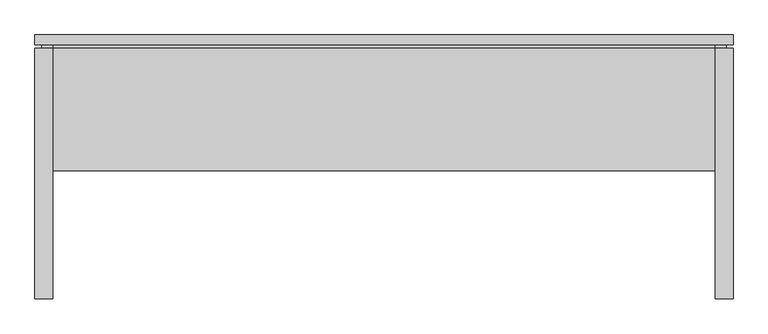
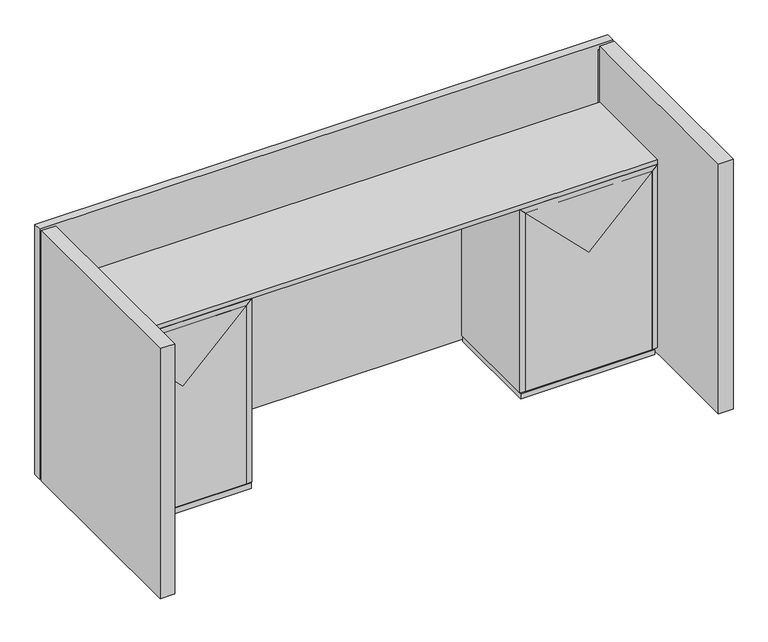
"""IFC4 building model written with IfcOpenShell, lengths in millimetres: proxy geometry, BASYS^OFFICE 5_DESK-36in LOOP BASESiam."""

import ifcopenshell
import ifcopenshell.guid

model = None  # the IFC model being written
_history = None  # IfcOwnerHistory: only IFC2X3 demands one
_inside = {}  # id of a spatial element -> (the spatial element, [elements in it])
_under = {}  # id of a project, library or spatial element -> (it, [spatial elements below it])
_declared = {}  # id of a project -> (the project, [libraries it declares])
_typed = {}  # id of a type object -> (the type object, [elements of that type])
_made_of = {}  # id of a material, layer set ... -> (it, [elements and type objects made of it])


def new_model(schema):
    """Start an empty IFC model of exactly this schema.

    Asked for "IFC4X3", IfcOpenShell would pick the latest addendum, in which some entities
    have other attributes; the version numbers below select the first issue.
    IFC2X3 requires an IfcOwnerHistory on every rooted entity: one is made here for all.
    """
    global model, _history
    if schema == "IFC4X3":
        model = ifcopenshell.file(schema_version=(4, 3, 0, 0))
    else:
        model = ifcopenshell.file(schema=schema)
    _inside.clear()
    _under.clear()
    _declared.clear()
    _typed.clear()
    _made_of.clear()
    _history = None
    if model.schema == "IFC2X3":
        org = make("IfcOrganization", Name="unknown")
        user = make(
            "IfcPersonAndOrganization",
            ThePerson=make("IfcPerson", FamilyName="unknown"),
            TheOrganization=org,
        )
        app = make(
            "IfcApplication",
            ApplicationDeveloper=org,
            Version="unknown",
            ApplicationFullName="unknown",
            ApplicationIdentifier="unknown",
        )
        _history = make(
            "IfcOwnerHistory",
            OwningUser=user,
            OwningApplication=app,
            ChangeAction="ADDED",
            CreationDate=0,
        )
    return model


def make(cls, **values):
    """One entity of the class cls with the attributes given. An attribute that is None is left unset."""
    return model.create_entity(
        cls, **{name: value for name, value in values.items() if value is not None}
    )


def rooted(cls, **values):
    """An entity with a GlobalId (a new one), such as an element, a storey or a relation."""
    return make(cls, GlobalId=ifcopenshell.guid.new(), OwnerHistory=_history, **values)


def si_unit(unit_type, name, prefix=None):
    """IfcSIUnit, for example si_unit("LENGTHUNIT", "METRE", prefix="MILLI")."""
    return make("IfcSIUnit", UnitType=unit_type, Prefix=prefix, Name=name)


def assignment(units):
    """IfcUnitAssignment: the units of a project."""
    return None if units is None else make("IfcUnitAssignment", Units=units)


def point(xyz):
    """IfcCartesianPoint."""
    return None if xyz is None else make("IfcCartesianPoint", Coordinates=xyz)


def direction(xyz):
    """IfcDirection."""
    return None if xyz is None else make("IfcDirection", DirectionRatios=xyz)


def frame(location, z_axis=None, x_axis=None):
    """IfcAxis2Placement3D, a coordinate frame: its origin and axes. An axis left out is left unset."""
    return make(
        "IfcAxis2Placement3D",
        Location=point(location),
        Axis=direction(z_axis),
        RefDirection=direction(x_axis),
    )


def origin():
    """The frame at (0, 0, 0) with its axes left unset."""
    return frame((0.0, 0.0, 0.0))


def place(relative_to, where):
    """IfcLocalPlacement: puts the frame where relative to a parent placement (None: the world)."""
    return make(
        "IfcLocalPlacement", PlacementRelTo=relative_to, RelativePlacement=where
    )


def context(
    kind, dimensions, precision=None, world=None, true_north=None, identifier=None
):
    """IfcGeometricRepresentationContext, for example the 3D "Model" context."""
    return make(
        "IfcGeometricRepresentationContext",
        ContextIdentifier=identifier,
        ContextType=kind,
        CoordinateSpaceDimension=dimensions,
        Precision=precision,
        WorldCoordinateSystem=world,
        TrueNorth=true_north,
    )


def project(units=None, contexts=None):
    """IfcProject with its units and contexts."""
    return rooted(
        "IfcProject",
        Name="project",
        RepresentationContexts=contexts,
        UnitsInContext=assignment(units),
    )


def spatial(cls, under=None, at=None, **own):
    """A site, building, storey or space (cls), placed at a placement, below another one or the project."""
    s = rooted(cls, ObjectPlacement=at, **own)
    if under is not None:
        _under.setdefault(under.id(), (under, []))[1].append(s)
    return s


def polyline(points):
    """IfcPolyline through the points."""
    return make("IfcPolyline", Points=[point(p) for p in points])


def outline(outer, holes=None, kind="AREA"):
    """IfcArbitraryClosedProfileDef: a profile drawn as a closed curve; with holes, ...WithVoids."""
    if holes is None:
        return make("IfcArbitraryClosedProfileDef", ProfileType=kind, OuterCurve=outer)
    return make(
        "IfcArbitraryProfileDefWithVoids",
        ProfileType=kind,
        OuterCurve=outer,
        InnerCurves=holes,
    )


def extrude(swept, where, along, depth):
    """IfcExtrudedAreaSolid: the profile swept, set in the frame where, extruded along a direction by depth."""
    return make(
        "IfcExtrudedAreaSolid",
        SweptArea=swept,
        Position=where,
        ExtrudedDirection=direction(along),
        Depth=depth,
    )


def shape(context_of_items, identifier, shape_type, items):
    """IfcShapeRepresentation: the items that make up one representation, for example the "Body"."""
    return make(
        "IfcShapeRepresentation",
        ContextOfItems=context_of_items,
        RepresentationIdentifier=identifier,
        RepresentationType=shape_type,
        Items=items,
    )


def source(mapping_origin, context_of_items, identifier, shape_type, items):
    """IfcRepresentationMap: a shape defined once, which mapped items show again and again."""
    return make(
        "IfcRepresentationMap",
        MappingOrigin=mapping_origin,
        MappedRepresentation=shape(context_of_items, identifier, shape_type, items),
    )


def transform(
    local_origin,
    x_axis=None,
    y_axis=None,
    z_axis=None,
    scale=None,
    scale2=None,
    scale3=None,
    uniform=True,
):
    """IfcCartesianTransformationOperator3D, or its non-uniform kind. x_axis, y_axis, z_axis: its Axis1, 2, 3."""
    if uniform:
        return make(
            "IfcCartesianTransformationOperator3D",
            Axis1=direction(x_axis),
            Axis2=direction(y_axis),
            LocalOrigin=point(local_origin),
            Scale=scale,
            Axis3=direction(z_axis),
        )
    return make(
        "IfcCartesianTransformationOperator3DnonUniform",
        Axis1=direction(x_axis),
        Axis2=direction(y_axis),
        LocalOrigin=point(local_origin),
        Scale=scale,
        Axis3=direction(z_axis),
        Scale2=scale2,
        Scale3=scale3,
    )


def mapped(mapping_source, mapping_target):
    """IfcMappedItem: shows the shape of a source again, moved by a transform."""
    return make(
        "IfcMappedItem", MappingSource=mapping_source, MappingTarget=mapping_target
    )


def made_of(thing, what):
    """Note that an element or type object is made of a material, layer set ...; save() writes the relation."""
    if what is not None:
        _made_of.setdefault(what.id(), (what, []))[1].append(thing)
    return thing


def element(
    cls,
    number,
    at=None,
    inside=None,
    cuts=None,
    type_object=None,
    material=None,
    context=None,
    identifier="Body",
    shape_type=None,
    held_by="IfcProductDefinitionShape",
    body=None,
    shapes=None,
    **own,
):
    """One element of the class cls, such as IfcWall. Its Tag is "e" and its number.

    at: its placement. inside: the storey or other place that contains it. cuts: it is an
    opening in that element (IfcRelVoidsElement). A single representation is given by context,
    identifier, shape_type and body (its items); several are given by shapes. held_by: the class
    of the entity that holds the representations. save() writes the other relations.
    """
    e = rooted(cls, Tag="e%d" % number, ObjectPlacement=at, **own)
    if body is not None:
        shapes = [shape(context, identifier, shape_type, body)]
    if shapes is not None:
        e.Representation = make(held_by, Representations=shapes)
    if inside is not None:
        _inside.setdefault(inside.id(), (inside, []))[1].append(e)
    if cuts is not None:
        rooted(
            "IfcRelVoidsElement", RelatingBuildingElement=cuts, RelatedOpeningElement=e
        )
    if type_object is not None:
        _typed.setdefault(type_object.id(), (type_object, []))[1].append(e)
    return made_of(e, material)


def aggregate(whole, parts):
    """IfcRelAggregates: a whole, such as a stair, and the parts it consists of."""
    return rooted("IfcRelAggregates", RelatingObject=whole, RelatedObjects=parts)


def save(model, path):
    """Write the relations noted so far, then the file.

    IfcRelAggregates (storeys below a building ...), IfcRelContainedInSpatialStructure (elements
    in a storey), IfcRelDefinesByType, IfcRelAssociatesMaterial and IfcRelDeclares: one each for
    every whole, place, type object, material and project.
    """
    for whole, parts in _under.values():
        aggregate(whole, parts)
    for where, things in _inside.values():
        rooted(
            "IfcRelContainedInSpatialStructure",
            RelatedElements=things,
            RelatingStructure=where,
        )
    for kind, things in _typed.values():
        rooted("IfcRelDefinesByType", RelatedObjects=things, RelatingType=kind)
    for what, things in _made_of.values():
        rooted("IfcRelAssociatesMaterial", RelatedObjects=things, RelatingMaterial=what)
    for by, libraries in _declared.values():
        rooted("IfcRelDeclares", RelatingContext=by, RelatedDefinitions=libraries)
    model.write(path)


def generic_models_d165ae00(model_context):
    return source(origin(), model_context, "Body", "SweptSolid", [
        extrude(outline(polyline([(876.9020604, -34.6129133), (-1028.0979396, -34.6129133), (-1028.0979396, -6.0379133), (876.9020604, -6.0379133), (876.9020604, -34.6129133)])), frame((0.0, 0.0, 79.1004515), z_axis=(0.0, 0.0, 1.0), x_axis=(1.0, 0.0, 0.0)), (0.0, 0.0, 1.0), 25.4),
        extrude(outline(polyline([(-1015.3979396, -15.5629133), (-1015.3979396, -726.7629133), (-1066.1979396, -726.7629133), (-1066.1979396, -15.5629133), (-1015.3979396, -15.5629133)])), frame((0.0, 0.0, -589.2370485), z_axis=(0.0, 0.0, 1.0), x_axis=(1.0, 0.0, 0.0)), (0.0, 0.0, 1.0), 914.4),
        extrude(outline(polyline([(-672.7010646, -71.3629133), (-874.7010646, -71.3629133), (-874.7010646, -61.3629133), (-672.7010646, -61.3629133), (-672.7010646, -71.3629133)])), frame((0.0, 0.0, -619.2370485), z_axis=(0.0, 0.0, 1.0), x_axis=(1.0, 0.0, 0.0)), (0.0, 0.0, 1.0), 30.0),
        extrude(outline(polyline([(85.4504515, -996.3479396), (104.5004515, -1015.3979396), (-567.0120485, -1015.3979396), (-567.0120485, -996.3479396), (85.4504515, -996.3479396)])), frame((0.0, -362.9079133, 0.0), z_axis=(0.0, 1.0, 0.0), x_axis=(0.0, 0.0, 1.0)), (0.0, 0.0, 1.0), 347.345),
        extrude(outline(polyline([(104.5004515, -1015.3979396), (-133.6245485, -777.2729396), (104.5004515, -539.1479396), (104.5004515, -1015.3979396)])), frame((0.0, -362.9079133, 0.0), z_axis=(0.0, 1.0, 0.0), x_axis=(0.0, 0.0, 1.0)), (0.0, 0.0, 1.0), 328.295),
        extrude(outline(polyline([(-558.1979396, -343.8579133), (-558.1979396, -362.9079133), (-996.3479396, -362.9079133), (-996.3479396, -343.8579133), (-558.1979396, -343.8579133)])), frame((0.0, 0.0, -567.0120485), z_axis=(0.0, 0.0, 1.0), x_axis=(1.0, 0.0, 0.0)), (0.0, 0.0, 1.0), 652.4625),
        extrude(outline(polyline([(-1005.8729396, -188.0447883), (-1005.8729396, -15.5629133), (-541.5291896, -15.5629133), (-541.5291896, -188.0447883), (-1005.8729396, -188.0447883)])), frame((0.0, 0.0, -589.2370485), z_axis=(0.0, 0.0, 1.0), x_axis=(1.0, 0.0, 0.0)), (0.0, 0.0, 1.0), 19.05),
        extrude(outline(polyline([(104.5004515, -539.1479396), (85.4504515, -558.1979396), (-567.0120485, -558.1979396), (-567.0120485, -539.1479396), (104.5004515, -539.1479396)])), frame((0.0, -362.9079133, 0.0), z_axis=(0.0, 1.0, 0.0), x_axis=(0.0, 0.0, 1.0)), (0.0, 0.0, 1.0), 347.345),
        extrude(outline(polyline([(-541.5291896, -190.4260383), (-541.5291896, -362.9079133), (-1005.8729396, -362.9079133), (-1005.8729396, -190.4260383), (-541.5291896, -190.4260383)])), frame((0.0, 0.0, -589.2370485), z_axis=(0.0, 0.0, 1.0), x_axis=(1.0, 0.0, 0.0)), (0.0, 0.0, 1.0), 19.05),
        extrude(outline(polyline([(-672.7010646, -246.2260383), (-874.7010646, -246.2260383), (-874.7010646, -236.2260383), (-672.7010646, -236.2260383), (-672.7010646, -246.2260383)])), frame((0.0, 0.0, -619.2370485), z_axis=(0.0, 0.0, 1.0), x_axis=(1.0, 0.0, 0.0)), (0.0, 0.0, 1.0), 30.0),
        extrude(outline(polyline([(864.2020604, -15.5629133), (864.2020604, -362.9079133), (-1015.3979396, -362.9079133), (-1015.3979396, -15.5629133), (864.2020604, -15.5629133)])), frame((0.0, 0.0, 104.5004515), z_axis=(0.0, 0.0, 1.0), x_axis=(1.0, 0.0, 0.0)), (0.0, 0.0, 1.0), 15.875),
        extrude(outline(polyline([(723.5051854, -71.3629133), (521.5051854, -71.3629133), (521.5051854, -61.3629133), (723.5051854, -61.3629133), (723.5051854, -71.3629133)])), frame((0.0, 0.0, -619.2370485), z_axis=(0.0, 0.0, 1.0), x_axis=(1.0, 0.0, 0.0)), (0.0, 0.0, 1.0), 30.0),
        extrude(outline(polyline([(85.4504515, 407.0020604), (104.5004515, 387.9520604), (-567.0120485, 387.9520604), (-567.0120485, 407.0020604), (85.4504515, 407.0020604)])), frame((0.0, -362.9079133, 0.0), z_axis=(0.0, 1.0, 0.0), x_axis=(0.0, 0.0, 1.0)), (0.0, 0.0, 1.0), 347.345),
        extrude(outline(polyline([(104.5004515, 387.9520604), (-133.6245485, 626.0770604), (104.5004515, 864.2020604), (104.5004515, 387.9520604)])), frame((0.0, -362.9079133, 0.0), z_axis=(0.0, 1.0, 0.0), x_axis=(0.0, 0.0, 1.0)), (0.0, 0.0, 1.0), 328.295),
        extrude(outline(polyline([(845.1520604, -343.8579133), (845.1520604, -362.9079133), (407.0020604, -362.9079133), (407.0020604, -343.8579133), (845.1520604, -343.8579133)])), frame((0.0, 0.0, -567.0120485), z_axis=(0.0, 0.0, 1.0), x_axis=(1.0, 0.0, 0.0)), (0.0, 0.0, 1.0), 652.4625),
        extrude(outline(polyline([(390.3333104, -362.9079133), (390.3333104, -15.5629133), (854.6770604, -15.5629133), (854.6770604, -362.9079133), (390.3333104, -362.9079133)])), frame((0.0, 0.0, -589.2370485), z_axis=(0.0, 0.0, 1.0), x_axis=(1.0, 0.0, 0.0)), (0.0, 0.0, 1.0), 19.05),
        extrude(outline(polyline([(104.5004515, 864.2020604), (85.4504515, 845.1520604), (-567.0120485, 845.1520604), (-567.0120485, 864.2020604), (104.5004515, 864.2020604)])), frame((0.0, -362.9079133, 0.0), z_axis=(0.0, 1.0, 0.0), x_axis=(0.0, 0.0, 1.0)), (0.0, 0.0, 1.0), 347.345),
        extrude(outline(polyline([(915.0020604, -6.0379133), (-1066.1979396, -6.0379133), (-1066.1979396, 22.5370867), (915.0020604, 22.5370867), (915.0020604, -6.0379133)])), frame((0.0, 0.0, -589.2370485), z_axis=(0.0, 0.0, 1.0), x_axis=(1.0, 0.0, 0.0)), (0.0, 0.0, 1.0), 914.4),
        extrude(outline(polyline([(-1047.1479396, -6.0379133), (-1015.3979396, -6.0379133), (-1015.3979396, -15.5629133), (-1047.1479396, -15.5629133), (-1047.1479396, -6.0379133)])), frame((0.0, 0.0, -570.1870485), z_axis=(0.0, 0.0, 1.0), x_axis=(1.0, 0.0, 0.0)), (0.0, 0.0, 1.0), 876.3),
        extrude(outline(polyline([(915.0020604, -15.5629133), (915.0020604, -726.7629133), (864.2020604, -726.7629133), (864.2020604, -15.5629133), (915.0020604, -15.5629133)])), frame((0.0, 0.0, -589.2370485), z_axis=(0.0, 0.0, 1.0), x_axis=(1.0, 0.0, 0.0)), (0.0, 0.0, 1.0), 914.4),
        extrude(outline(polyline([(895.9520604, -15.5629133), (864.2020604, -15.5629133), (864.2020604, -6.0379133), (895.9520604, -6.0379133), (895.9520604, -15.5629133)])), frame((0.0, 0.0, -570.1870485), z_axis=(0.0, 0.0, 1.0), x_axis=(1.0, 0.0, 0.0)), (0.0, 0.0, 1.0), 876.3),
    ])


if __name__ == "__main__":
    model = new_model("IFC4")
    model_context = context("Model", 3, world=origin())
    ifc_project = project(units=[si_unit("LENGTHUNIT", "METRE", prefix="MILLI")], contexts=[model_context])
    site = spatial("IfcSite", under=ifc_project)
    building = spatial("IfcBuilding", under=site)
    placement = place(None, origin())
    generic_models_shape = generic_models_d165ae00(model_context)
    element("IfcBuildingElementProxy", 1, Name="BASYS^OFFICE 5_DESK-36in LOOP BASESiam", ObjectType="BASYS^OFFICE 5_DESK-36in LOOP BASESiam", at=placement, inside=building, context=model_context, shape_type="MappedRepresentation", body=[
        mapped(generic_models_shape, transform((0.0, 0.0, 0.0), x_axis=(1.0, 0.0, 0.0), y_axis=(0.0, 1.0, 0.0), z_axis=(0.0, 0.0, 1.0))),
    ])
    save(model, "model.ifc")
